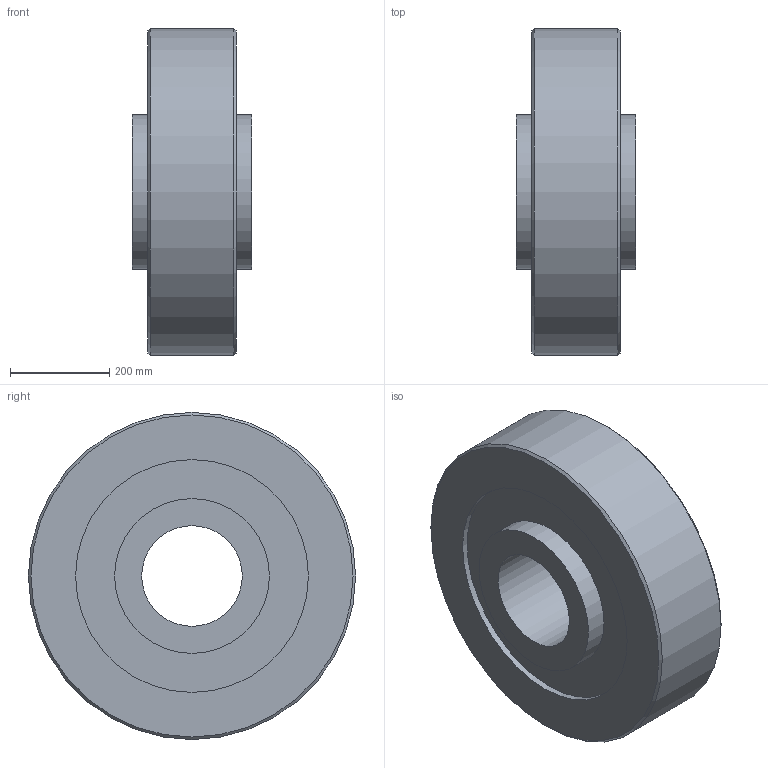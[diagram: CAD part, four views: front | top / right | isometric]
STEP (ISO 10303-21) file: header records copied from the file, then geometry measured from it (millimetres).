
FILE_DESCRIPTION((''),'1');
FILE_NAME('H:/図庫/国内ﾕﾆｯﾄ/ｶﾀﾛｸﾞ/ｸﾘｰﾌﾟﾌﾘｰ/ホームページ用ＣＡＤ図面/3D/update用', '2017-07-13T01:53:30',(''), (''), 'KCM Version 1.1.1442.0', 'Kubotek KeyCreator', '');
FILE_SCHEMA(('AUTOMOTIVE_DESIGN'));
Length unit declared in the file: inch
Bounding box: 241.3 x 660.4 x 660.4 mm (x, y, z)
Surface area: 1255468.5 mm2 (no closed solid volume)
Topology: 0 solids, 14 shells, 14 faces, 36 edges, 28 vertices
Faces by surface type: cylinder 6, plane 6, cone 2
Full cylindrical faces by diameter (mm): 203.2 x1, 312.42 x2, 469.9 x2, 660.4 x1
Entity records: 482 total; most frequent: DIRECTION 94, CARTESIAN_POINT 79, ORIENTED_EDGE 44, AXIS2_PLACEMENT_3D 43, EDGE_CURVE 36, VERTEX_POINT 28, CIRCLE 28, EDGE_LOOP 20
